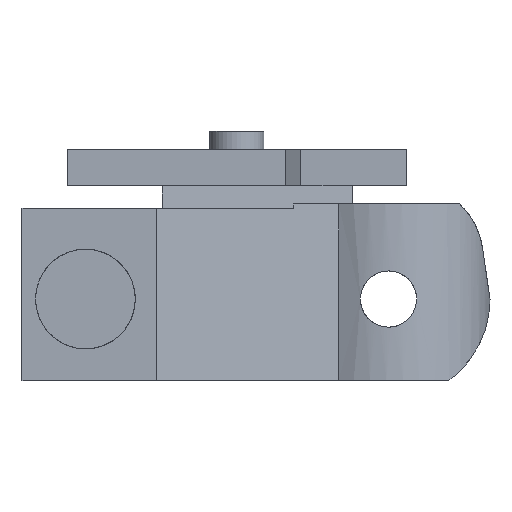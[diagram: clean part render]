
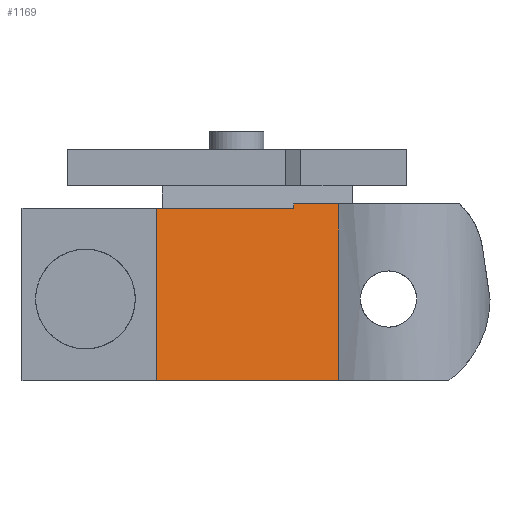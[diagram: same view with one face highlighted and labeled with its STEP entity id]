
A CAD part, front view. The second image highlights one B-rep face of the part: STEP entity #1169.
In plain terms, the highlighted planar face has unit normal (0.255, -0.967, 0).
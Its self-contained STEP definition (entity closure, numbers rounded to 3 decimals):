
#981 = VERTEX_POINT ( 'NONE', #3077 ) ;
#985 = ORIENTED_EDGE ( 'NONE', *, *, #1153, .T. ) ;
#1001 = EDGE_LOOP ( 'NONE', ( #1255, #1101, #1249, #1205, #985, #1094 ) ) ;
#1094 = ORIENTED_EDGE ( 'NONE', *, *, #1251, .T. ) ;
#1101 = ORIENTED_EDGE ( 'NONE', *, *, #1260, .T. ) ;
#1102 = EDGE_CURVE ( 'NONE', #1156, #1111, #6700, .T. ) ;
#1111 = VERTEX_POINT ( 'NONE', #6704 ) ;
#1139 = EDGE_CURVE ( 'NONE', #1248, #1142, #6580, .T. ) ;
#1142 = VERTEX_POINT ( 'NONE', #6579 ) ;
#1153 = EDGE_CURVE ( 'NONE', #1142, #981, #3710, .T. ) ;
#1156 = VERTEX_POINT ( 'NONE', #3757 ) ;
#1169 = ADVANCED_FACE ( 'NONE', ( #3703 ), #3775, .T. ) ;
#1205 = ORIENTED_EDGE ( 'NONE', *, *, #1139, .T. ) ;
#1248 = VERTEX_POINT ( 'NONE', #4080 ) ;
#1249 = ORIENTED_EDGE ( 'NONE', *, *, #1263, .T. ) ;
#1251 = EDGE_CURVE ( 'NONE', #981, #1156, #4058, .T. ) ;
#1255 = ORIENTED_EDGE ( 'NONE', *, *, #1102, .T. ) ;
#1257 = VERTEX_POINT ( 'NONE', #4071 ) ;
#1260 = EDGE_CURVE ( 'NONE', #1111, #1257, #4179, .T. ) ;
#1263 = EDGE_CURVE ( 'NONE', #1257, #1248, #4208, .T. ) ;
#3077 = CARTESIAN_POINT ( 'NONE',  ( 9.113, -9.75, 17. ) ) ;
#3703 = FACE_OUTER_BOUND ( 'NONE', #1001, .T. ) ;
#3704 = AXIS2_PLACEMENT_3D ( 'NONE', #3778, #3724, #3723 ) ;
#3710 = LINE ( 'NONE', #3743, #3742 ) ;
#3723 = DIRECTION ( 'NONE',  ( 0.967, 0.255, 0. ) ) ;
#3724 = DIRECTION ( 'NONE',  ( 0.255, -0.967, 0. ) ) ;
#3741 = DIRECTION ( 'NONE',  ( 0.967, 0.255, 0. ) ) ;
#3742 = VECTOR ( 'NONE', #3741, 1000. ) ;
#3743 = CARTESIAN_POINT ( 'NONE',  ( -11.025, -15.07, 17. ) ) ;
#3757 = CARTESIAN_POINT ( 'NONE',  ( 9.113, -9.75, 36.5 ) ) ;
#3775 = PLANE ( 'NONE',  #3704 ) ;
#3778 = CARTESIAN_POINT ( 'NONE',  ( -11.025, -15.07, 36.5 ) ) ;
#4058 = LINE ( 'NONE', #4059, #4060 ) ;
#4059 = CARTESIAN_POINT ( 'NONE',  ( 9.113, -9.75, 36.5 ) ) ;
#4060 = VECTOR ( 'NONE', #4061, 1000. ) ;
#4061 = DIRECTION ( 'NONE',  ( 0., 0., 1. ) ) ;
#4071 = CARTESIAN_POINT ( 'NONE',  ( 4.175, -11.055, 36. ) ) ;
#4080 = CARTESIAN_POINT ( 'NONE',  ( -11.025, -15.07, 36. ) ) ;
#4174 = DIRECTION ( 'NONE',  ( -0.967, -0.255, 0. ) ) ;
#4175 = VECTOR ( 'NONE', #4174, 1000. ) ;
#4178 = CARTESIAN_POINT ( 'NONE',  ( 4.175, -11.055, 36.5 ) ) ;
#4179 = LINE ( 'NONE', #4178, #4199 ) ;
#4199 = VECTOR ( 'NONE', #4204, 1000. ) ;
#4203 = CARTESIAN_POINT ( 'NONE',  ( -11.025, -15.07, 36. ) ) ;
#4204 = DIRECTION ( 'NONE',  ( 0., 0., -1. ) ) ;
#4208 = LINE ( 'NONE', #4203, #4175 ) ;
#6575 = DIRECTION ( 'NONE',  ( 0., 0., -1. ) ) ;
#6576 = CARTESIAN_POINT ( 'NONE',  ( -11.025, -15.07, 36.5 ) ) ;
#6579 = CARTESIAN_POINT ( 'NONE',  ( -11.025, -15.07, 17. ) ) ;
#6580 = LINE ( 'NONE', #6576, #6587 ) ;
#6587 = VECTOR ( 'NONE', #6575, 1000. ) ;
#6699 = CARTESIAN_POINT ( 'NONE',  ( -11.025, -15.07, 36.5 ) ) ;
#6700 = LINE ( 'NONE', #6699, #6734 ) ;
#6704 = CARTESIAN_POINT ( 'NONE',  ( 4.175, -11.055, 36.5 ) ) ;
#6733 = DIRECTION ( 'NONE',  ( -0.967, -0.255, 0. ) ) ;
#6734 = VECTOR ( 'NONE', #6733, 1000. ) ;
